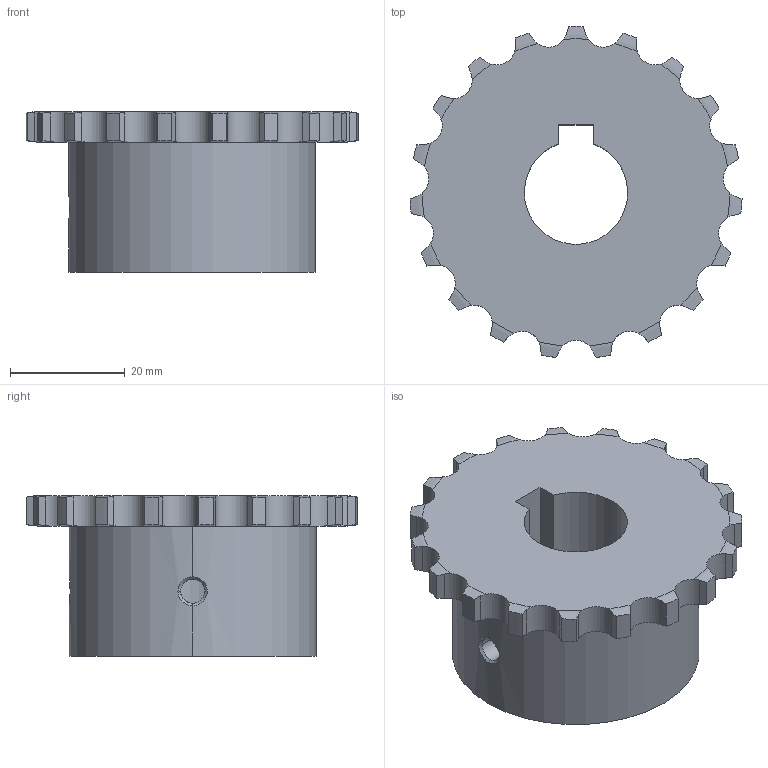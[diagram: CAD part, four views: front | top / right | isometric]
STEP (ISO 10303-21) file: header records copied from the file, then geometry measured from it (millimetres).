
FILE_DESCRIPTION((''),'2;1');
FILE_NAME('510-101-1819_PRT','2021-02-13T',('Brieden'),('Brieden'),'PRO/ENGINEER BY PARAMETRIC TECHNOLOGY CORPORATION, 2010160','PRO/ENGINEER BY PARAMETRIC TECHNOLOGY CORPORATION, 2010160','');
FILE_SCHEMA(('AUTOMOTIVE_DESIGN { 1 0 10303 214 1 1 1 1 }'));
Length unit declared in the file: millimetre
Products named in the file (1): 510-101-1819_PRT
Bounding box: 57.83 x 57.65 x 28 mm (x, y, z)
Volume: 37338.4 mm3; surface area: 10383.5 mm2
Topology: 1 solids, 1 shells, 133 faces, 387 edges, 256 vertices
Faces by surface type: cylinder 83, torus 38, plane 6, bspline 6
Entity records: 6526 total; most frequent: CARTESIAN_POINT 1997, ORIENTED_EDGE 774, DIRECTION 597, PRESENTATION_STYLE_ASSIGNMENT 388, STYLED_ITEM 388, CURVE_STYLE 387, EDGE_CURVE 387, VERTEX_POINT 256
